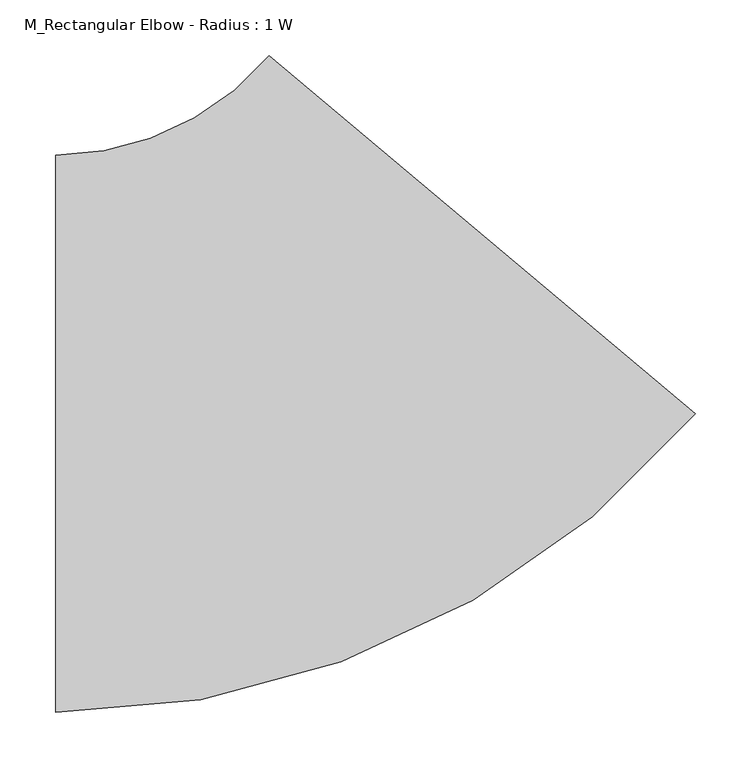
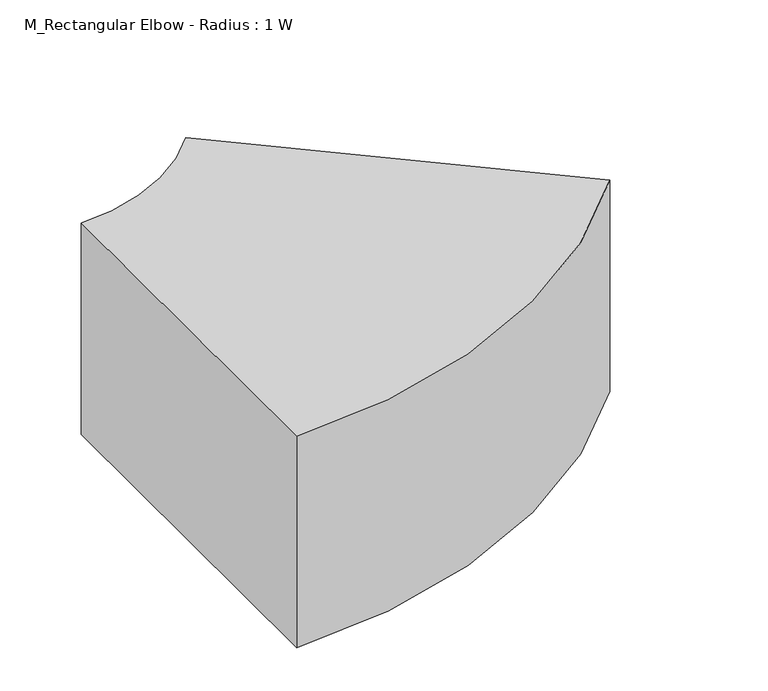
"""IFC4 building model written with IfcOpenShell, lengths in millimetres: duct fitting geometry, M_Rectangular Elbow - Radius : 1 W."""

from ifc_helpers import new_model, si_unit, point, frame, frame_2d, origin, place, context, project, spatial, polyline, circle_curve, trimmed, segment, composite_curve, outline, extrude, source, transform, mapped, element, save


def m_rectangular_elbow_radius_1_w_5e0afaab(model_context):
    return source(origin(), model_context, "Body", "SweptSolid", [
        extrude(outline(composite_curve([segment(trimmed(circle_curve(frame_2d((-233.1538291, 500.0)), 750.0), [point((341.3795033, 17.9092927))], [point((-233.1538291, -250.0))], False, "CARTESIAN"), True, "CONTINUOUS"), segment(polyline([(-233.1538291, -250.0), (-233.1538291, 250.0)]), True, "CONTINUOUS"), segment(trimmed(circle_curve(frame_2d((-233.1538291, 500.0)), 250.0), [point((-233.1538291, 250.0))], [point((-41.6427183, 339.3030976))], True, "CARTESIAN"), True, "CONTINUOUS"), segment(polyline([(-41.6427183, 339.3030976), (341.3795033, 17.9092927)]), True, "CONTINUOUS")], self_intersect=False)), frame((0.0, 0.0, -150.0), z_axis=(0.0, 0.0, 1.0), x_axis=(1.0, 0.0, 0.0)), (0.0, 0.0, 1.0), 300.0),
    ])


if __name__ == "__main__":
    model = new_model("IFC4")
    model_context = context("Model", 3, world=origin())
    ifc_project = project(units=[si_unit("LENGTHUNIT", "METRE", prefix="MILLI")], contexts=[model_context])
    site = spatial("IfcSite", under=ifc_project)
    building = spatial("IfcBuilding", under=site)
    placement = place(None, origin())
    m_rectangular_elbow_radius_1_w_shape = m_rectangular_elbow_radius_1_w_5e0afaab(model_context)
    element("IfcDuctFitting", 1, ObjectType="M_Rectangular Elbow - Radius : 1 W", at=placement, inside=building, context=model_context, shape_type="MappedRepresentation", body=[
        mapped(m_rectangular_elbow_radius_1_w_shape, transform((0.0, 0.0, 0.0), x_axis=(1.0, 0.0, 0.0), y_axis=(0.0, 1.0, 0.0), z_axis=(0.0, 0.0, 1.0))),
    ])
    save(model, "model.ifc")
